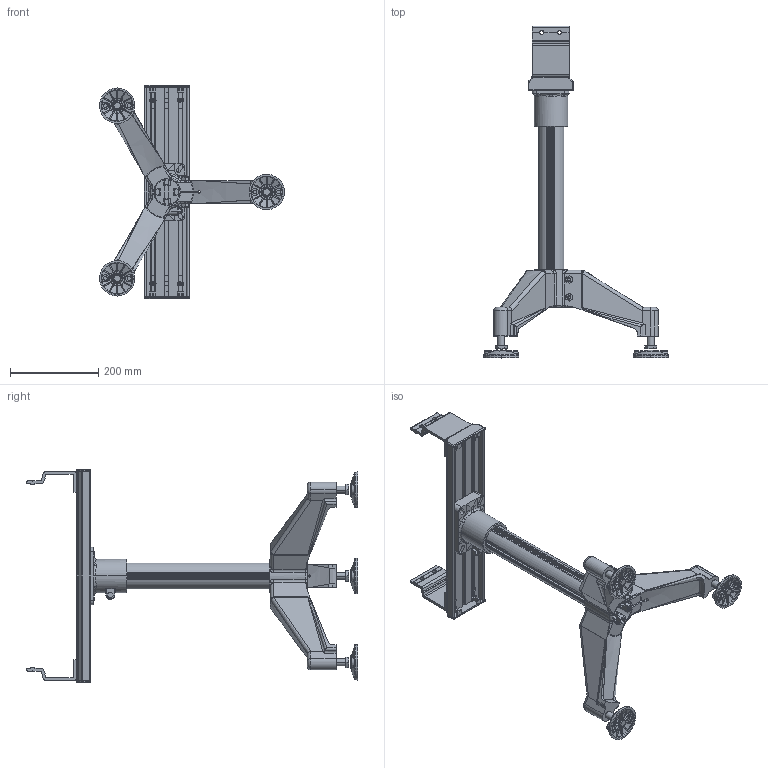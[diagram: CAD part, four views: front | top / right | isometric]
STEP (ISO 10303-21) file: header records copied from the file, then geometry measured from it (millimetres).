
FILE_DESCRIPTION (( 'STEP AP214' ), '1' );
FILE_NAME ('F2-1500-P3.STEP', '2010-03-11T09:05:09', ( '.' ), ( '' ), 'SwSTEP 2.0', 'SolidWorks 2009', '' );
FILE_SCHEMA (( 'AUTOMOTIVE_DESIGN' ));
Length unit declared in the file: millimetre
Products named in the file (1): F2-1500-P3
Bounding box: 418.25 x 750.06 x 482 mm (x, y, z)
Surface area: 820066.6 mm2 (no closed solid volume)
Topology: 0 solids, 20 shells, 1183 faces, 3928 edges, 2603 vertices
Faces by surface type: plane 482, cylinder 337, bspline 120, cone 115, torus 87, sphere 42
Entity records: 77481 total; most frequent: CARTESIAN_POINT 32374, ORIENTED_EDGE 6641, DIRECTION 6314, EDGE_CURVE 3916, VERTEX_POINT 2603, AXIS2_PLACEMENT_3D 2359, LINE 1596, VECTOR 1596
